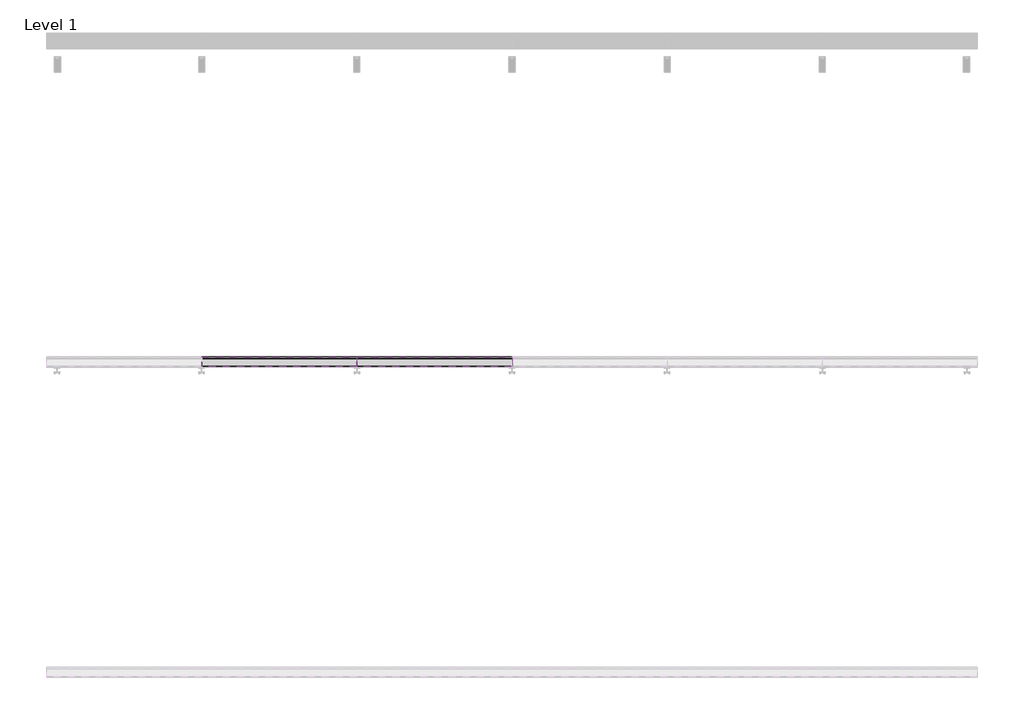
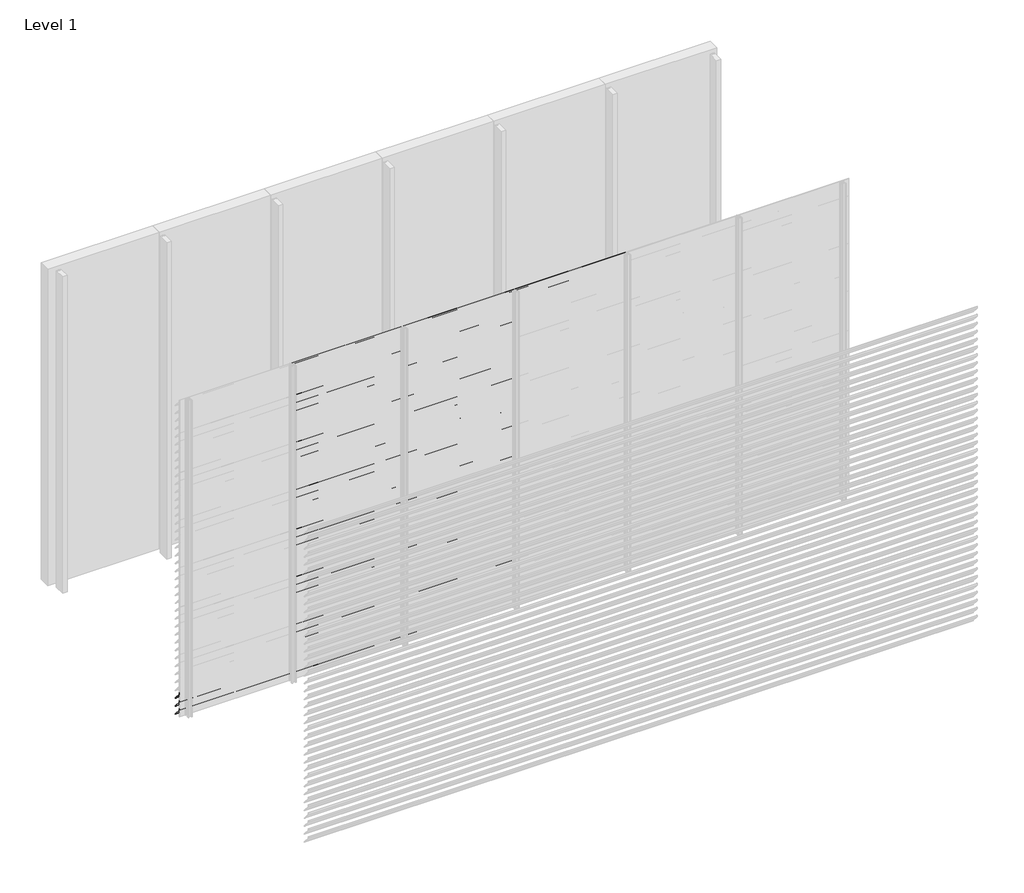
# One storey, part 11 of 35: 86 proxies.
"""IFC4 building model written with IfcOpenShell, lengths in millimetres."""

from ifc_helpers import new_model, si_unit, frame, origin, place, context, project, spatial, polyline, outline, extrude, element, save

model = new_model("IFC4")

# Units and contexts
model_context = context("Model", 3, world=origin())
ifc_project = project(units=[si_unit("LENGTHUNIT", "METRE", prefix="MILLI")], contexts=[model_context])

# Site, building, storey
site = spatial("IfcSite", under=ifc_project)
building = spatial("IfcBuilding", under=site)
storey = spatial("IfcBuildingStorey", under=building, Name="Level 1", Elevation=0.0)

# Proxies
placement = place(None, origin())
element("IfcBuildingElementProxy", 1, Name="Wall Sweeps", at=placement, inside=storey, context=model_context, shape_type="SweptSolid", body=[
    extrude(outline(polyline([(-41996.5, 225.0), (-41996.5, 210.5463701), (-41934.5, 138.9330051), (-41934.5, 135.4), (-41936.0, 135.4), (-41936.0, 138.3738975), (-41998.0, 209.9872626), (-41998.0, 225.0), (-41996.5, 225.0)])), frame((0.0, 0.0, 0.0), z_axis=(1.0, 0.0, 0.0), x_axis=(0.0, 1.0, 0.0)), (0.0, 0.0, 1.0), 1000.0),
])
element("IfcBuildingElementProxy", 2, Name="Wall Sweeps", at=placement, inside=storey, context=model_context, shape_type="SweptSolid", body=[
    extrude(outline(polyline([(-41996.5, 150.0), (-41996.5, 135.5463701), (-41934.5, 63.9330051), (-41934.5, 60.4), (-41936.0, 60.4), (-41936.0, 63.3738975), (-41998.0, 134.9872626), (-41998.0, 150.0), (-41996.5, 150.0)])), frame((0.0, 0.0, 0.0), z_axis=(1.0, 0.0, 0.0), x_axis=(0.0, 1.0, 0.0)), (0.0, 0.0, 1.0), 1000.0),
])
element("IfcBuildingElementProxy", 3, Name="Wall Sweeps", at=placement, inside=storey, context=model_context, shape_type="SweptSolid", body=[
    extrude(outline(polyline([(-41996.5, 75.0), (-41996.5, 60.5463701), (-41934.5, -11.0669949), (-41934.5, -14.6), (-41936.0, -14.6), (-41936.0, -11.6261025), (-41998.0, 59.9872626), (-41998.0, 75.0), (-41996.5, 75.0)])), frame((0.0, 0.0, 0.0), z_axis=(1.0, 0.0, 0.0), x_axis=(0.0, 1.0, 0.0)), (0.0, 0.0, 1.0), 1000.0),
])
element("IfcBuildingElementProxy", 4, Name="Wall Sweeps", at=placement, inside=storey, context=model_context, shape_type="SweptSolid", body=[
    extrude(outline(polyline([(-41996.5, 3000.0), (-41996.5, 2985.5463701), (-41934.5, 2913.9330051), (-41934.5, 2910.4), (-41936.0, 2910.4), (-41936.0, 2913.3738975), (-41998.0, 2984.9872626), (-41998.0, 3000.0), (-41996.5, 3000.0)])), frame((1000.0, 0.0, 0.0), z_axis=(1.0, 0.0, 0.0), x_axis=(0.0, 1.0, 0.0)), (0.0, 0.0, 1.0), 1000.0),
])
element("IfcBuildingElementProxy", 5, Name="Wall Sweeps", at=placement, inside=storey, context=model_context, shape_type="SweptSolid", body=[
    extrude(outline(polyline([(-41996.5, 2925.0), (-41996.5, 2910.5463701), (-41934.5, 2838.9330051), (-41934.5, 2835.4), (-41936.0, 2835.4), (-41936.0, 2838.3738975), (-41998.0, 2909.9872626), (-41998.0, 2925.0), (-41996.5, 2925.0)])), frame((1000.0, 0.0, 0.0), z_axis=(1.0, 0.0, 0.0), x_axis=(0.0, 1.0, 0.0)), (0.0, 0.0, 1.0), 1000.0),
])
element("IfcBuildingElementProxy", 6, Name="Wall Sweeps", at=placement, inside=storey, context=model_context, shape_type="SweptSolid", body=[
    extrude(outline(polyline([(-41996.5, 2850.0), (-41996.5, 2835.5463701), (-41934.5, 2763.9330051), (-41934.5, 2760.4), (-41936.0, 2760.4), (-41936.0, 2763.3738975), (-41998.0, 2834.9872626), (-41998.0, 2850.0), (-41996.5, 2850.0)])), frame((1000.0, 0.0, 0.0), z_axis=(1.0, 0.0, 0.0), x_axis=(0.0, 1.0, 0.0)), (0.0, 0.0, 1.0), 1000.0),
])
element("IfcBuildingElementProxy", 7, Name="Wall Sweeps", at=placement, inside=storey, context=model_context, shape_type="SweptSolid", body=[
    extrude(outline(polyline([(-41996.5, 2775.0), (-41996.5, 2760.5463701), (-41934.5, 2688.9330051), (-41934.5, 2685.4), (-41936.0, 2685.4), (-41936.0, 2688.3738975), (-41998.0, 2759.9872626), (-41998.0, 2775.0), (-41996.5, 2775.0)])), frame((1000.0, 0.0, 0.0), z_axis=(1.0, 0.0, 0.0), x_axis=(0.0, 1.0, 0.0)), (0.0, 0.0, 1.0), 1000.0),
])
element("IfcBuildingElementProxy", 8, Name="Wall Sweeps", at=placement, inside=storey, context=model_context, shape_type="SweptSolid", body=[
    extrude(outline(polyline([(-41996.5, 2700.0), (-41996.5, 2685.5463701), (-41934.5, 2613.9330051), (-41934.5, 2610.4), (-41936.0, 2610.4), (-41936.0, 2613.3738975), (-41998.0, 2684.9872626), (-41998.0, 2700.0), (-41996.5, 2700.0)])), frame((1000.0, 0.0, 0.0), z_axis=(1.0, 0.0, 0.0), x_axis=(0.0, 1.0, 0.0)), (0.0, 0.0, 1.0), 1000.0),
])
element("IfcBuildingElementProxy", 9, Name="Wall Sweeps", at=placement, inside=storey, context=model_context, shape_type="SweptSolid", body=[
    extrude(outline(polyline([(-41996.5, 2625.0), (-41996.5, 2610.5463701), (-41934.5, 2538.9330051), (-41934.5, 2535.4), (-41936.0, 2535.4), (-41936.0, 2538.3738975), (-41998.0, 2609.9872626), (-41998.0, 2625.0), (-41996.5, 2625.0)])), frame((1000.0, 0.0, 0.0), z_axis=(1.0, 0.0, 0.0), x_axis=(0.0, 1.0, 0.0)), (0.0, 0.0, 1.0), 1000.0),
])
element("IfcBuildingElementProxy", 10, Name="Wall Sweeps", at=placement, inside=storey, context=model_context, shape_type="SweptSolid", body=[
    extrude(outline(polyline([(-41996.5, 2550.0), (-41996.5, 2535.5463701), (-41934.5, 2463.9330051), (-41934.5, 2460.4), (-41936.0, 2460.4), (-41936.0, 2463.3738975), (-41998.0, 2534.9872626), (-41998.0, 2550.0), (-41996.5, 2550.0)])), frame((1000.0, 0.0, 0.0), z_axis=(1.0, 0.0, 0.0), x_axis=(0.0, 1.0, 0.0)), (0.0, 0.0, 1.0), 1000.0),
])
element("IfcBuildingElementProxy", 11, Name="Wall Sweeps", at=placement, inside=storey, context=model_context, shape_type="SweptSolid", body=[
    extrude(outline(polyline([(-41996.5, 2475.0), (-41996.5, 2460.5463701), (-41934.5, 2388.9330051), (-41934.5, 2385.4), (-41936.0, 2385.4), (-41936.0, 2388.3738975), (-41998.0, 2459.9872626), (-41998.0, 2475.0), (-41996.5, 2475.0)])), frame((1000.0, 0.0, 0.0), z_axis=(1.0, 0.0, 0.0), x_axis=(0.0, 1.0, 0.0)), (0.0, 0.0, 1.0), 1000.0),
])
element("IfcBuildingElementProxy", 12, Name="Wall Sweeps", at=placement, inside=storey, context=model_context, shape_type="SweptSolid", body=[
    extrude(outline(polyline([(-41996.5, 2400.0), (-41996.5, 2385.5463701), (-41934.5, 2313.9330051), (-41934.5, 2310.4), (-41936.0, 2310.4), (-41936.0, 2313.3738975), (-41998.0, 2384.9872626), (-41998.0, 2400.0), (-41996.5, 2400.0)])), frame((1000.0, 0.0, 0.0), z_axis=(1.0, 0.0, 0.0), x_axis=(0.0, 1.0, 0.0)), (0.0, 0.0, 1.0), 1000.0),
])
element("IfcBuildingElementProxy", 13, Name="Wall Sweeps", at=placement, inside=storey, context=model_context, shape_type="SweptSolid", body=[
    extrude(outline(polyline([(-41996.5, 2325.0), (-41996.5, 2310.5463701), (-41934.5, 2238.9330051), (-41934.5, 2235.4), (-41936.0, 2235.4), (-41936.0, 2238.3738975), (-41998.0, 2309.9872626), (-41998.0, 2325.0), (-41996.5, 2325.0)])), frame((1000.0, 0.0, 0.0), z_axis=(1.0, 0.0, 0.0), x_axis=(0.0, 1.0, 0.0)), (0.0, 0.0, 1.0), 1000.0),
])
element("IfcBuildingElementProxy", 14, Name="Wall Sweeps", at=placement, inside=storey, context=model_context, shape_type="SweptSolid", body=[
    extrude(outline(polyline([(-41996.5, 2250.0), (-41996.5, 2235.5463701), (-41934.5, 2163.9330051), (-41934.5, 2160.4), (-41936.0, 2160.4), (-41936.0, 2163.3738975), (-41998.0, 2234.9872626), (-41998.0, 2250.0), (-41996.5, 2250.0)])), frame((1000.0, 0.0, 0.0), z_axis=(1.0, 0.0, 0.0), x_axis=(0.0, 1.0, 0.0)), (0.0, 0.0, 1.0), 1000.0),
])
element("IfcBuildingElementProxy", 15, Name="Wall Sweeps", at=placement, inside=storey, context=model_context, shape_type="SweptSolid", body=[
    extrude(outline(polyline([(-41996.5, 2175.0), (-41996.5, 2160.5463701), (-41934.5, 2088.9330051), (-41934.5, 2085.4), (-41936.0, 2085.4), (-41936.0, 2088.3738975), (-41998.0, 2159.9872626), (-41998.0, 2175.0), (-41996.5, 2175.0)])), frame((1000.0, 0.0, 0.0), z_axis=(1.0, 0.0, 0.0), x_axis=(0.0, 1.0, 0.0)), (0.0, 0.0, 1.0), 1000.0),
])
element("IfcBuildingElementProxy", 16, Name="Wall Sweeps", at=placement, inside=storey, context=model_context, shape_type="SweptSolid", body=[
    extrude(outline(polyline([(-41996.5, 2100.0), (-41996.5, 2085.5463701), (-41934.5, 2013.9330051), (-41934.5, 2010.4), (-41936.0, 2010.4), (-41936.0, 2013.3738975), (-41998.0, 2084.9872626), (-41998.0, 2100.0), (-41996.5, 2100.0)])), frame((1000.0, 0.0, 0.0), z_axis=(1.0, 0.0, 0.0), x_axis=(0.0, 1.0, 0.0)), (0.0, 0.0, 1.0), 1000.0),
])
element("IfcBuildingElementProxy", 17, Name="Wall Sweeps", at=placement, inside=storey, context=model_context, shape_type="SweptSolid", body=[
    extrude(outline(polyline([(-41996.5, 2025.0), (-41996.5, 2010.5463701), (-41934.5, 1938.9330051), (-41934.5, 1935.4), (-41936.0, 1935.4), (-41936.0, 1938.3738975), (-41998.0, 2009.9872626), (-41998.0, 2025.0), (-41996.5, 2025.0)])), frame((1000.0, 0.0, 0.0), z_axis=(1.0, 0.0, 0.0), x_axis=(0.0, 1.0, 0.0)), (0.0, 0.0, 1.0), 1000.0),
])
element("IfcBuildingElementProxy", 18, Name="Wall Sweeps", at=placement, inside=storey, context=model_context, shape_type="SweptSolid", body=[
    extrude(outline(polyline([(-41996.5, 1950.0), (-41996.5, 1935.5463701), (-41934.5, 1863.9330051), (-41934.5, 1860.4), (-41936.0, 1860.4), (-41936.0, 1863.3738975), (-41998.0, 1934.9872626), (-41998.0, 1950.0), (-41996.5, 1950.0)])), frame((1000.0, 0.0, 0.0), z_axis=(1.0, 0.0, 0.0), x_axis=(0.0, 1.0, 0.0)), (0.0, 0.0, 1.0), 1000.0),
])
element("IfcBuildingElementProxy", 19, Name="Wall Sweeps", at=placement, inside=storey, context=model_context, shape_type="SweptSolid", body=[
    extrude(outline(polyline([(-41996.5, 1875.0), (-41996.5, 1860.5463701), (-41934.5, 1788.9330051), (-41934.5, 1785.4), (-41936.0, 1785.4), (-41936.0, 1788.3738975), (-41998.0, 1859.9872626), (-41998.0, 1875.0), (-41996.5, 1875.0)])), frame((1000.0, 0.0, 0.0), z_axis=(1.0, 0.0, 0.0), x_axis=(0.0, 1.0, 0.0)), (0.0, 0.0, 1.0), 1000.0),
])
element("IfcBuildingElementProxy", 20, Name="Wall Sweeps", at=placement, inside=storey, context=model_context, shape_type="SweptSolid", body=[
    extrude(outline(polyline([(-41996.5, 1800.0), (-41996.5, 1785.5463701), (-41934.5, 1713.9330051), (-41934.5, 1710.4), (-41936.0, 1710.4), (-41936.0, 1713.3738975), (-41998.0, 1784.9872626), (-41998.0, 1800.0), (-41996.5, 1800.0)])), frame((1000.0, 0.0, 0.0), z_axis=(1.0, 0.0, 0.0), x_axis=(0.0, 1.0, 0.0)), (0.0, 0.0, 1.0), 1000.0),
])
element("IfcBuildingElementProxy", 21, Name="Wall Sweeps", at=placement, inside=storey, context=model_context, shape_type="SweptSolid", body=[
    extrude(outline(polyline([(-41996.5, 1725.0), (-41996.5, 1710.5463701), (-41934.5, 1638.9330051), (-41934.5, 1635.4), (-41936.0, 1635.4), (-41936.0, 1638.3738975), (-41998.0, 1709.9872626), (-41998.0, 1725.0), (-41996.5, 1725.0)])), frame((1000.0, 0.0, 0.0), z_axis=(1.0, 0.0, 0.0), x_axis=(0.0, 1.0, 0.0)), (0.0, 0.0, 1.0), 1000.0),
])
element("IfcBuildingElementProxy", 22, Name="Wall Sweeps", at=placement, inside=storey, context=model_context, shape_type="SweptSolid", body=[
    extrude(outline(polyline([(-41996.5, 1650.0), (-41996.5, 1635.5463701), (-41934.5, 1563.9330051), (-41934.5, 1560.4), (-41936.0, 1560.4), (-41936.0, 1563.3738975), (-41998.0, 1634.9872626), (-41998.0, 1650.0), (-41996.5, 1650.0)])), frame((1000.0, 0.0, 0.0), z_axis=(1.0, 0.0, 0.0), x_axis=(0.0, 1.0, 0.0)), (0.0, 0.0, 1.0), 1000.0),
])
element("IfcBuildingElementProxy", 23, Name="Wall Sweeps", at=placement, inside=storey, context=model_context, shape_type="SweptSolid", body=[
    extrude(outline(polyline([(-41996.5, 1575.0), (-41996.5, 1560.5463701), (-41934.5, 1488.9330051), (-41934.5, 1485.4), (-41936.0, 1485.4), (-41936.0, 1488.3738975), (-41998.0, 1559.9872626), (-41998.0, 1575.0), (-41996.5, 1575.0)])), frame((1000.0, 0.0, 0.0), z_axis=(1.0, 0.0, 0.0), x_axis=(0.0, 1.0, 0.0)), (0.0, 0.0, 1.0), 1000.0),
])
element("IfcBuildingElementProxy", 24, Name="Wall Sweeps", at=placement, inside=storey, context=model_context, shape_type="SweptSolid", body=[
    extrude(outline(polyline([(-41996.5, 1500.0), (-41996.5, 1485.5463701), (-41934.5, 1413.9330051), (-41934.5, 1410.4), (-41936.0, 1410.4), (-41936.0, 1413.3738975), (-41998.0, 1484.9872626), (-41998.0, 1500.0), (-41996.5, 1500.0)])), frame((1000.0, 0.0, 0.0), z_axis=(1.0, 0.0, 0.0), x_axis=(0.0, 1.0, 0.0)), (0.0, 0.0, 1.0), 1000.0),
])
element("IfcBuildingElementProxy", 25, Name="Wall Sweeps", at=placement, inside=storey, context=model_context, shape_type="SweptSolid", body=[
    extrude(outline(polyline([(-41996.5, 1425.0), (-41996.5, 1410.5463701), (-41934.5, 1338.9330051), (-41934.5, 1335.4), (-41936.0, 1335.4), (-41936.0, 1338.3738975), (-41998.0, 1409.9872626), (-41998.0, 1425.0), (-41996.5, 1425.0)])), frame((1000.0, 0.0, 0.0), z_axis=(1.0, 0.0, 0.0), x_axis=(0.0, 1.0, 0.0)), (0.0, 0.0, 1.0), 1000.0),
])
element("IfcBuildingElementProxy", 26, Name="Wall Sweeps", at=placement, inside=storey, context=model_context, shape_type="SweptSolid", body=[
    extrude(outline(polyline([(-41996.5, 1350.0), (-41996.5, 1335.5463701), (-41934.5, 1263.9330051), (-41934.5, 1260.4), (-41936.0, 1260.4), (-41936.0, 1263.3738975), (-41998.0, 1334.9872626), (-41998.0, 1350.0), (-41996.5, 1350.0)])), frame((1000.0, 0.0, 0.0), z_axis=(1.0, 0.0, 0.0), x_axis=(0.0, 1.0, 0.0)), (0.0, 0.0, 1.0), 1000.0),
])
element("IfcBuildingElementProxy", 27, Name="Wall Sweeps", at=placement, inside=storey, context=model_context, shape_type="SweptSolid", body=[
    extrude(outline(polyline([(-41996.5, 1275.0), (-41996.5, 1260.5463701), (-41934.5, 1188.9330051), (-41934.5, 1185.4), (-41936.0, 1185.4), (-41936.0, 1188.3738975), (-41998.0, 1259.9872626), (-41998.0, 1275.0), (-41996.5, 1275.0)])), frame((1000.0, 0.0, 0.0), z_axis=(1.0, 0.0, 0.0), x_axis=(0.0, 1.0, 0.0)), (0.0, 0.0, 1.0), 1000.0),
])
element("IfcBuildingElementProxy", 28, Name="Wall Sweeps", at=placement, inside=storey, context=model_context, shape_type="SweptSolid", body=[
    extrude(outline(polyline([(-41996.5, 1200.0), (-41996.5, 1185.5463701), (-41934.5, 1113.9330051), (-41934.5, 1110.4), (-41936.0, 1110.4), (-41936.0, 1113.3738975), (-41998.0, 1184.9872626), (-41998.0, 1200.0), (-41996.5, 1200.0)])), frame((1000.0, 0.0, 0.0), z_axis=(1.0, 0.0, 0.0), x_axis=(0.0, 1.0, 0.0)), (0.0, 0.0, 1.0), 1000.0),
])
element("IfcBuildingElementProxy", 29, Name="Wall Sweeps", at=placement, inside=storey, context=model_context, shape_type="SweptSolid", body=[
    extrude(outline(polyline([(-41996.5, 1125.0), (-41996.5, 1110.5463701), (-41934.5, 1038.9330051), (-41934.5, 1035.4), (-41936.0, 1035.4), (-41936.0, 1038.3738975), (-41998.0, 1109.9872626), (-41998.0, 1125.0), (-41996.5, 1125.0)])), frame((1000.0, 0.0, 0.0), z_axis=(1.0, 0.0, 0.0), x_axis=(0.0, 1.0, 0.0)), (0.0, 0.0, 1.0), 1000.0),
])
element("IfcBuildingElementProxy", 30, Name="Wall Sweeps", at=placement, inside=storey, context=model_context, shape_type="SweptSolid", body=[
    extrude(outline(polyline([(-41996.5, 1050.0), (-41996.5, 1035.5463701), (-41934.5, 963.9330051), (-41934.5, 960.4), (-41936.0, 960.4), (-41936.0, 963.3738975), (-41998.0, 1034.9872626), (-41998.0, 1050.0), (-41996.5, 1050.0)])), frame((1000.0, 0.0, 0.0), z_axis=(1.0, 0.0, 0.0), x_axis=(0.0, 1.0, 0.0)), (0.0, 0.0, 1.0), 1000.0),
])
element("IfcBuildingElementProxy", 31, Name="Wall Sweeps", at=placement, inside=storey, context=model_context, shape_type="SweptSolid", body=[
    extrude(outline(polyline([(-41996.5, 975.0), (-41996.5, 960.5463701), (-41934.5, 888.9330051), (-41934.5, 885.4), (-41936.0, 885.4), (-41936.0, 888.3738975), (-41998.0, 959.9872626), (-41998.0, 975.0), (-41996.5, 975.0)])), frame((1000.0, 0.0, 0.0), z_axis=(1.0, 0.0, 0.0), x_axis=(0.0, 1.0, 0.0)), (0.0, 0.0, 1.0), 1000.0),
])
element("IfcBuildingElementProxy", 32, Name="Wall Sweeps", at=placement, inside=storey, context=model_context, shape_type="SweptSolid", body=[
    extrude(outline(polyline([(-41996.5, 900.0), (-41996.5, 885.5463701), (-41934.5, 813.9330051), (-41934.5, 810.4), (-41936.0, 810.4), (-41936.0, 813.3738975), (-41998.0, 884.9872626), (-41998.0, 900.0), (-41996.5, 900.0)])), frame((1000.0, 0.0, 0.0), z_axis=(1.0, 0.0, 0.0), x_axis=(0.0, 1.0, 0.0)), (0.0, 0.0, 1.0), 1000.0),
])
element("IfcBuildingElementProxy", 33, Name="Wall Sweeps", at=placement, inside=storey, context=model_context, shape_type="SweptSolid", body=[
    extrude(outline(polyline([(-41996.5, 825.0), (-41996.5, 810.5463701), (-41934.5, 738.9330051), (-41934.5, 735.4), (-41936.0, 735.4), (-41936.0, 738.3738975), (-41998.0, 809.9872626), (-41998.0, 825.0), (-41996.5, 825.0)])), frame((1000.0, 0.0, 0.0), z_axis=(1.0, 0.0, 0.0), x_axis=(0.0, 1.0, 0.0)), (0.0, 0.0, 1.0), 1000.0),
])
element("IfcBuildingElementProxy", 34, Name="Wall Sweeps", at=placement, inside=storey, context=model_context, shape_type="SweptSolid", body=[
    extrude(outline(polyline([(-41996.5, 750.0), (-41996.5, 735.5463701), (-41934.5, 663.9330051), (-41934.5, 660.4), (-41936.0, 660.4), (-41936.0, 663.3738975), (-41998.0, 734.9872626), (-41998.0, 750.0), (-41996.5, 750.0)])), frame((1000.0, 0.0, 0.0), z_axis=(1.0, 0.0, 0.0), x_axis=(0.0, 1.0, 0.0)), (0.0, 0.0, 1.0), 1000.0),
])
element("IfcBuildingElementProxy", 35, Name="Wall Sweeps", at=placement, inside=storey, context=model_context, shape_type="SweptSolid", body=[
    extrude(outline(polyline([(-41996.5, 675.0), (-41996.5, 660.5463701), (-41934.5, 588.9330051), (-41934.5, 585.4), (-41936.0, 585.4), (-41936.0, 588.3738975), (-41998.0, 659.9872626), (-41998.0, 675.0), (-41996.5, 675.0)])), frame((1000.0, 0.0, 0.0), z_axis=(1.0, 0.0, 0.0), x_axis=(0.0, 1.0, 0.0)), (0.0, 0.0, 1.0), 1000.0),
])
element("IfcBuildingElementProxy", 36, Name="Wall Sweeps", at=placement, inside=storey, context=model_context, shape_type="SweptSolid", body=[
    extrude(outline(polyline([(-41996.5, 600.0), (-41996.5, 585.5463701), (-41934.5, 513.9330051), (-41934.5, 510.4), (-41936.0, 510.4), (-41936.0, 513.3738975), (-41998.0, 584.9872626), (-41998.0, 600.0), (-41996.5, 600.0)])), frame((1000.0, 0.0, 0.0), z_axis=(1.0, 0.0, 0.0), x_axis=(0.0, 1.0, 0.0)), (0.0, 0.0, 1.0), 1000.0),
])
element("IfcBuildingElementProxy", 37, Name="Wall Sweeps", at=placement, inside=storey, context=model_context, shape_type="SweptSolid", body=[
    extrude(outline(polyline([(-41996.5, 525.0), (-41996.5, 510.5463701), (-41934.5, 438.9330051), (-41934.5, 435.4), (-41936.0, 435.4), (-41936.0, 438.3738975), (-41998.0, 509.9872626), (-41998.0, 525.0), (-41996.5, 525.0)])), frame((1000.0, 0.0, 0.0), z_axis=(1.0, 0.0, 0.0), x_axis=(0.0, 1.0, 0.0)), (0.0, 0.0, 1.0), 1000.0),
])
element("IfcBuildingElementProxy", 38, Name="Wall Sweeps", at=placement, inside=storey, context=model_context, shape_type="SweptSolid", body=[
    extrude(outline(polyline([(-41996.5, 450.0), (-41996.5, 435.5463701), (-41934.5, 363.9330051), (-41934.5, 360.4), (-41936.0, 360.4), (-41936.0, 363.3738975), (-41998.0, 434.9872626), (-41998.0, 450.0), (-41996.5, 450.0)])), frame((1000.0, 0.0, 0.0), z_axis=(1.0, 0.0, 0.0), x_axis=(0.0, 1.0, 0.0)), (0.0, 0.0, 1.0), 1000.0),
])
element("IfcBuildingElementProxy", 39, Name="Wall Sweeps", at=placement, inside=storey, context=model_context, shape_type="SweptSolid", body=[
    extrude(outline(polyline([(-41996.5, 375.0), (-41996.5, 360.5463701), (-41934.5, 288.9330051), (-41934.5, 285.4), (-41936.0, 285.4), (-41936.0, 288.3738975), (-41998.0, 359.9872626), (-41998.0, 375.0), (-41996.5, 375.0)])), frame((1000.0, 0.0, 0.0), z_axis=(1.0, 0.0, 0.0), x_axis=(0.0, 1.0, 0.0)), (0.0, 0.0, 1.0), 1000.0),
])
element("IfcBuildingElementProxy", 40, Name="Wall Sweeps", at=placement, inside=storey, context=model_context, shape_type="SweptSolid", body=[
    extrude(outline(polyline([(-41996.5, 300.0), (-41996.5, 285.5463701), (-41934.5, 213.9330051), (-41934.5, 210.4), (-41936.0, 210.4), (-41936.0, 213.3738975), (-41998.0, 284.9872626), (-41998.0, 300.0), (-41996.5, 300.0)])), frame((1000.0, 0.0, 0.0), z_axis=(1.0, 0.0, 0.0), x_axis=(0.0, 1.0, 0.0)), (0.0, 0.0, 1.0), 1000.0),
])
element("IfcBuildingElementProxy", 41, Name="Wall Sweeps", at=placement, inside=storey, context=model_context, shape_type="SweptSolid", body=[
    extrude(outline(polyline([(-41996.5, 225.0), (-41996.5, 210.5463701), (-41934.5, 138.9330051), (-41934.5, 135.4), (-41936.0, 135.4), (-41936.0, 138.3738975), (-41998.0, 209.9872626), (-41998.0, 225.0), (-41996.5, 225.0)])), frame((1000.0, 0.0, 0.0), z_axis=(1.0, 0.0, 0.0), x_axis=(0.0, 1.0, 0.0)), (0.0, 0.0, 1.0), 1000.0),
])
element("IfcBuildingElementProxy", 42, Name="Wall Sweeps", at=placement, inside=storey, context=model_context, shape_type="SweptSolid", body=[
    extrude(outline(polyline([(-41996.5, 150.0), (-41996.5, 135.5463701), (-41934.5, 63.9330051), (-41934.5, 60.4), (-41936.0, 60.4), (-41936.0, 63.3738975), (-41998.0, 134.9872626), (-41998.0, 150.0), (-41996.5, 150.0)])), frame((1000.0, 0.0, 0.0), z_axis=(1.0, 0.0, 0.0), x_axis=(0.0, 1.0, 0.0)), (0.0, 0.0, 1.0), 1000.0),
])
element("IfcBuildingElementProxy", 43, Name="Wall Sweeps", at=placement, inside=storey, context=model_context, shape_type="SweptSolid", body=[
    extrude(outline(polyline([(-41996.5, 75.0), (-41996.5, 60.5463701), (-41934.5, -11.0669949), (-41934.5, -14.6), (-41936.0, -14.6), (-41936.0, -11.6261025), (-41998.0, 59.9872626), (-41998.0, 75.0), (-41996.5, 75.0)])), frame((1000.0, 0.0, 0.0), z_axis=(1.0, 0.0, 0.0), x_axis=(0.0, 1.0, 0.0)), (0.0, 0.0, 1.0), 1000.0),
])
element("IfcBuildingElementProxy", 44, Name="Wall Sweeps", at=placement, inside=storey, context=model_context, shape_type="SweptSolid", body=[
    extrude(outline(polyline([(-41996.5, 3000.0), (-41996.5, 2985.5463701), (-41934.5, 2913.9330051), (-41934.5, 2910.4), (-41936.0, 2910.4), (-41936.0, 2913.3738975), (-41998.0, 2984.9872626), (-41998.0, 3000.0), (-41996.5, 3000.0)])), frame((2000.0, 0.0, 0.0), z_axis=(1.0, 0.0, 0.0), x_axis=(0.0, 1.0, 0.0)), (0.0, 0.0, 1.0), 1000.0),
])
element("IfcBuildingElementProxy", 45, Name="Wall Sweeps", at=placement, inside=storey, context=model_context, shape_type="SweptSolid", body=[
    extrude(outline(polyline([(-41996.5, 2925.0), (-41996.5, 2910.5463701), (-41934.5, 2838.9330051), (-41934.5, 2835.4), (-41936.0, 2835.4), (-41936.0, 2838.3738975), (-41998.0, 2909.9872626), (-41998.0, 2925.0), (-41996.5, 2925.0)])), frame((2000.0, 0.0, 0.0), z_axis=(1.0, 0.0, 0.0), x_axis=(0.0, 1.0, 0.0)), (0.0, 0.0, 1.0), 1000.0),
])
element("IfcBuildingElementProxy", 46, Name="Wall Sweeps", at=placement, inside=storey, context=model_context, shape_type="SweptSolid", body=[
    extrude(outline(polyline([(-41996.5, 2850.0), (-41996.5, 2835.5463701), (-41934.5, 2763.9330051), (-41934.5, 2760.4), (-41936.0, 2760.4), (-41936.0, 2763.3738975), (-41998.0, 2834.9872626), (-41998.0, 2850.0), (-41996.5, 2850.0)])), frame((2000.0, 0.0, 0.0), z_axis=(1.0, 0.0, 0.0), x_axis=(0.0, 1.0, 0.0)), (0.0, 0.0, 1.0), 1000.0),
])
element("IfcBuildingElementProxy", 47, Name="Wall Sweeps", at=placement, inside=storey, context=model_context, shape_type="SweptSolid", body=[
    extrude(outline(polyline([(-41996.5, 2775.0), (-41996.5, 2760.5463701), (-41934.5, 2688.9330051), (-41934.5, 2685.4), (-41936.0, 2685.4), (-41936.0, 2688.3738975), (-41998.0, 2759.9872626), (-41998.0, 2775.0), (-41996.5, 2775.0)])), frame((2000.0, 0.0, 0.0), z_axis=(1.0, 0.0, 0.0), x_axis=(0.0, 1.0, 0.0)), (0.0, 0.0, 1.0), 1000.0),
])
element("IfcBuildingElementProxy", 48, Name="Wall Sweeps", at=placement, inside=storey, context=model_context, shape_type="SweptSolid", body=[
    extrude(outline(polyline([(-41996.5, 2700.0), (-41996.5, 2685.5463701), (-41934.5, 2613.9330051), (-41934.5, 2610.4), (-41936.0, 2610.4), (-41936.0, 2613.3738975), (-41998.0, 2684.9872626), (-41998.0, 2700.0), (-41996.5, 2700.0)])), frame((2000.0, 0.0, 0.0), z_axis=(1.0, 0.0, 0.0), x_axis=(0.0, 1.0, 0.0)), (0.0, 0.0, 1.0), 1000.0),
])
element("IfcBuildingElementProxy", 49, Name="Wall Sweeps", at=placement, inside=storey, context=model_context, shape_type="SweptSolid", body=[
    extrude(outline(polyline([(-41996.5, 2625.0), (-41996.5, 2610.5463701), (-41934.5, 2538.9330051), (-41934.5, 2535.4), (-41936.0, 2535.4), (-41936.0, 2538.3738975), (-41998.0, 2609.9872626), (-41998.0, 2625.0), (-41996.5, 2625.0)])), frame((2000.0, 0.0, 0.0), z_axis=(1.0, 0.0, 0.0), x_axis=(0.0, 1.0, 0.0)), (0.0, 0.0, 1.0), 1000.0),
])
element("IfcBuildingElementProxy", 50, Name="Wall Sweeps", at=placement, inside=storey, context=model_context, shape_type="SweptSolid", body=[
    extrude(outline(polyline([(-41996.5, 2550.0), (-41996.5, 2535.5463701), (-41934.5, 2463.9330051), (-41934.5, 2460.4), (-41936.0, 2460.4), (-41936.0, 2463.3738975), (-41998.0, 2534.9872626), (-41998.0, 2550.0), (-41996.5, 2550.0)])), frame((2000.0, 0.0, 0.0), z_axis=(1.0, 0.0, 0.0), x_axis=(0.0, 1.0, 0.0)), (0.0, 0.0, 1.0), 1000.0),
])
element("IfcBuildingElementProxy", 51, Name="Wall Sweeps", at=placement, inside=storey, context=model_context, shape_type="SweptSolid", body=[
    extrude(outline(polyline([(-41996.5, 2475.0), (-41996.5, 2460.5463701), (-41934.5, 2388.9330051), (-41934.5, 2385.4), (-41936.0, 2385.4), (-41936.0, 2388.3738975), (-41998.0, 2459.9872626), (-41998.0, 2475.0), (-41996.5, 2475.0)])), frame((2000.0, 0.0, 0.0), z_axis=(1.0, 0.0, 0.0), x_axis=(0.0, 1.0, 0.0)), (0.0, 0.0, 1.0), 1000.0),
])
element("IfcBuildingElementProxy", 52, Name="Wall Sweeps", at=placement, inside=storey, context=model_context, shape_type="SweptSolid", body=[
    extrude(outline(polyline([(-41996.5, 2400.0), (-41996.5, 2385.5463701), (-41934.5, 2313.9330051), (-41934.5, 2310.4), (-41936.0, 2310.4), (-41936.0, 2313.3738975), (-41998.0, 2384.9872626), (-41998.0, 2400.0), (-41996.5, 2400.0)])), frame((2000.0, 0.0, 0.0), z_axis=(1.0, 0.0, 0.0), x_axis=(0.0, 1.0, 0.0)), (0.0, 0.0, 1.0), 1000.0),
])
element("IfcBuildingElementProxy", 53, Name="Wall Sweeps", at=placement, inside=storey, context=model_context, shape_type="SweptSolid", body=[
    extrude(outline(polyline([(-41996.5, 2325.0), (-41996.5, 2310.5463701), (-41934.5, 2238.9330051), (-41934.5, 2235.4), (-41936.0, 2235.4), (-41936.0, 2238.3738975), (-41998.0, 2309.9872626), (-41998.0, 2325.0), (-41996.5, 2325.0)])), frame((2000.0, 0.0, 0.0), z_axis=(1.0, 0.0, 0.0), x_axis=(0.0, 1.0, 0.0)), (0.0, 0.0, 1.0), 1000.0),
])
element("IfcBuildingElementProxy", 54, Name="Wall Sweeps", at=placement, inside=storey, context=model_context, shape_type="SweptSolid", body=[
    extrude(outline(polyline([(-41996.5, 2250.0), (-41996.5, 2235.5463701), (-41934.5, 2163.9330051), (-41934.5, 2160.4), (-41936.0, 2160.4), (-41936.0, 2163.3738975), (-41998.0, 2234.9872626), (-41998.0, 2250.0), (-41996.5, 2250.0)])), frame((2000.0, 0.0, 0.0), z_axis=(1.0, 0.0, 0.0), x_axis=(0.0, 1.0, 0.0)), (0.0, 0.0, 1.0), 1000.0),
])
element("IfcBuildingElementProxy", 55, Name="Wall Sweeps", at=placement, inside=storey, context=model_context, shape_type="SweptSolid", body=[
    extrude(outline(polyline([(-41996.5, 2175.0), (-41996.5, 2160.5463701), (-41934.5, 2088.9330051), (-41934.5, 2085.4), (-41936.0, 2085.4), (-41936.0, 2088.3738975), (-41998.0, 2159.9872626), (-41998.0, 2175.0), (-41996.5, 2175.0)])), frame((2000.0, 0.0, 0.0), z_axis=(1.0, 0.0, 0.0), x_axis=(0.0, 1.0, 0.0)), (0.0, 0.0, 1.0), 1000.0),
])
element("IfcBuildingElementProxy", 56, Name="Wall Sweeps", at=placement, inside=storey, context=model_context, shape_type="SweptSolid", body=[
    extrude(outline(polyline([(-41996.5, 2100.0), (-41996.5, 2085.5463701), (-41934.5, 2013.9330051), (-41934.5, 2010.4), (-41936.0, 2010.4), (-41936.0, 2013.3738975), (-41998.0, 2084.9872626), (-41998.0, 2100.0), (-41996.5, 2100.0)])), frame((2000.0, 0.0, 0.0), z_axis=(1.0, 0.0, 0.0), x_axis=(0.0, 1.0, 0.0)), (0.0, 0.0, 1.0), 1000.0),
])
element("IfcBuildingElementProxy", 57, Name="Wall Sweeps", at=placement, inside=storey, context=model_context, shape_type="SweptSolid", body=[
    extrude(outline(polyline([(-41996.5, 2025.0), (-41996.5, 2010.5463701), (-41934.5, 1938.9330051), (-41934.5, 1935.4), (-41936.0, 1935.4), (-41936.0, 1938.3738975), (-41998.0, 2009.9872626), (-41998.0, 2025.0), (-41996.5, 2025.0)])), frame((2000.0, 0.0, 0.0), z_axis=(1.0, 0.0, 0.0), x_axis=(0.0, 1.0, 0.0)), (0.0, 0.0, 1.0), 1000.0),
])
element("IfcBuildingElementProxy", 58, Name="Wall Sweeps", at=placement, inside=storey, context=model_context, shape_type="SweptSolid", body=[
    extrude(outline(polyline([(-41996.5, 1950.0), (-41996.5, 1935.5463701), (-41934.5, 1863.9330051), (-41934.5, 1860.4), (-41936.0, 1860.4), (-41936.0, 1863.3738975), (-41998.0, 1934.9872626), (-41998.0, 1950.0), (-41996.5, 1950.0)])), frame((2000.0, 0.0, 0.0), z_axis=(1.0, 0.0, 0.0), x_axis=(0.0, 1.0, 0.0)), (0.0, 0.0, 1.0), 1000.0),
])
element("IfcBuildingElementProxy", 59, Name="Wall Sweeps", at=placement, inside=storey, context=model_context, shape_type="SweptSolid", body=[
    extrude(outline(polyline([(-41996.5, 1875.0), (-41996.5, 1860.5463701), (-41934.5, 1788.9330051), (-41934.5, 1785.4), (-41936.0, 1785.4), (-41936.0, 1788.3738975), (-41998.0, 1859.9872626), (-41998.0, 1875.0), (-41996.5, 1875.0)])), frame((2000.0, 0.0, 0.0), z_axis=(1.0, 0.0, 0.0), x_axis=(0.0, 1.0, 0.0)), (0.0, 0.0, 1.0), 1000.0),
])
element("IfcBuildingElementProxy", 60, Name="Wall Sweeps", at=placement, inside=storey, context=model_context, shape_type="SweptSolid", body=[
    extrude(outline(polyline([(-41996.5, 1800.0), (-41996.5, 1785.5463701), (-41934.5, 1713.9330051), (-41934.5, 1710.4), (-41936.0, 1710.4), (-41936.0, 1713.3738975), (-41998.0, 1784.9872626), (-41998.0, 1800.0), (-41996.5, 1800.0)])), frame((2000.0, 0.0, 0.0), z_axis=(1.0, 0.0, 0.0), x_axis=(0.0, 1.0, 0.0)), (0.0, 0.0, 1.0), 1000.0),
])
element("IfcBuildingElementProxy", 61, Name="Wall Sweeps", at=placement, inside=storey, context=model_context, shape_type="SweptSolid", body=[
    extrude(outline(polyline([(-41996.5, 1725.0), (-41996.5, 1710.5463701), (-41934.5, 1638.9330051), (-41934.5, 1635.4), (-41936.0, 1635.4), (-41936.0, 1638.3738975), (-41998.0, 1709.9872626), (-41998.0, 1725.0), (-41996.5, 1725.0)])), frame((2000.0, 0.0, 0.0), z_axis=(1.0, 0.0, 0.0), x_axis=(0.0, 1.0, 0.0)), (0.0, 0.0, 1.0), 1000.0),
])
element("IfcBuildingElementProxy", 62, Name="Wall Sweeps", at=placement, inside=storey, context=model_context, shape_type="SweptSolid", body=[
    extrude(outline(polyline([(-41996.5, 1650.0), (-41996.5, 1635.5463701), (-41934.5, 1563.9330051), (-41934.5, 1560.4), (-41936.0, 1560.4), (-41936.0, 1563.3738975), (-41998.0, 1634.9872626), (-41998.0, 1650.0), (-41996.5, 1650.0)])), frame((2000.0, 0.0, 0.0), z_axis=(1.0, 0.0, 0.0), x_axis=(0.0, 1.0, 0.0)), (0.0, 0.0, 1.0), 1000.0),
])
element("IfcBuildingElementProxy", 63, Name="Wall Sweeps", at=placement, inside=storey, context=model_context, shape_type="SweptSolid", body=[
    extrude(outline(polyline([(-41996.5, 1575.0), (-41996.5, 1560.5463701), (-41934.5, 1488.9330051), (-41934.5, 1485.4), (-41936.0, 1485.4), (-41936.0, 1488.3738975), (-41998.0, 1559.9872626), (-41998.0, 1575.0), (-41996.5, 1575.0)])), frame((2000.0, 0.0, 0.0), z_axis=(1.0, 0.0, 0.0), x_axis=(0.0, 1.0, 0.0)), (0.0, 0.0, 1.0), 1000.0),
])
element("IfcBuildingElementProxy", 64, Name="Wall Sweeps", at=placement, inside=storey, context=model_context, shape_type="SweptSolid", body=[
    extrude(outline(polyline([(-41996.5, 1500.0), (-41996.5, 1485.5463701), (-41934.5, 1413.9330051), (-41934.5, 1410.4), (-41936.0, 1410.4), (-41936.0, 1413.3738975), (-41998.0, 1484.9872626), (-41998.0, 1500.0), (-41996.5, 1500.0)])), frame((2000.0, 0.0, 0.0), z_axis=(1.0, 0.0, 0.0), x_axis=(0.0, 1.0, 0.0)), (0.0, 0.0, 1.0), 1000.0),
])
element("IfcBuildingElementProxy", 65, Name="Wall Sweeps", at=placement, inside=storey, context=model_context, shape_type="SweptSolid", body=[
    extrude(outline(polyline([(-41996.5, 1425.0), (-41996.5, 1410.5463701), (-41934.5, 1338.9330051), (-41934.5, 1335.4), (-41936.0, 1335.4), (-41936.0, 1338.3738975), (-41998.0, 1409.9872626), (-41998.0, 1425.0), (-41996.5, 1425.0)])), frame((2000.0, 0.0, 0.0), z_axis=(1.0, 0.0, 0.0), x_axis=(0.0, 1.0, 0.0)), (0.0, 0.0, 1.0), 1000.0),
])
element("IfcBuildingElementProxy", 66, Name="Wall Sweeps", at=placement, inside=storey, context=model_context, shape_type="SweptSolid", body=[
    extrude(outline(polyline([(-41996.5, 1350.0), (-41996.5, 1335.5463701), (-41934.5, 1263.9330051), (-41934.5, 1260.4), (-41936.0, 1260.4), (-41936.0, 1263.3738975), (-41998.0, 1334.9872626), (-41998.0, 1350.0), (-41996.5, 1350.0)])), frame((2000.0, 0.0, 0.0), z_axis=(1.0, 0.0, 0.0), x_axis=(0.0, 1.0, 0.0)), (0.0, 0.0, 1.0), 1000.0),
])
element("IfcBuildingElementProxy", 67, Name="Wall Sweeps", at=placement, inside=storey, context=model_context, shape_type="SweptSolid", body=[
    extrude(outline(polyline([(-41996.5, 1275.0), (-41996.5, 1260.5463701), (-41934.5, 1188.9330051), (-41934.5, 1185.4), (-41936.0, 1185.4), (-41936.0, 1188.3738975), (-41998.0, 1259.9872626), (-41998.0, 1275.0), (-41996.5, 1275.0)])), frame((2000.0, 0.0, 0.0), z_axis=(1.0, 0.0, 0.0), x_axis=(0.0, 1.0, 0.0)), (0.0, 0.0, 1.0), 1000.0),
])
element("IfcBuildingElementProxy", 68, Name="Wall Sweeps", at=placement, inside=storey, context=model_context, shape_type="SweptSolid", body=[
    extrude(outline(polyline([(-41996.5, 1200.0), (-41996.5, 1185.5463701), (-41934.5, 1113.9330051), (-41934.5, 1110.4), (-41936.0, 1110.4), (-41936.0, 1113.3738975), (-41998.0, 1184.9872626), (-41998.0, 1200.0), (-41996.5, 1200.0)])), frame((2000.0, 0.0, 0.0), z_axis=(1.0, 0.0, 0.0), x_axis=(0.0, 1.0, 0.0)), (0.0, 0.0, 1.0), 1000.0),
])
element("IfcBuildingElementProxy", 69, Name="Wall Sweeps", at=placement, inside=storey, context=model_context, shape_type="SweptSolid", body=[
    extrude(outline(polyline([(-41996.5, 1125.0), (-41996.5, 1110.5463701), (-41934.5, 1038.9330051), (-41934.5, 1035.4), (-41936.0, 1035.4), (-41936.0, 1038.3738975), (-41998.0, 1109.9872626), (-41998.0, 1125.0), (-41996.5, 1125.0)])), frame((2000.0, 0.0, 0.0), z_axis=(1.0, 0.0, 0.0), x_axis=(0.0, 1.0, 0.0)), (0.0, 0.0, 1.0), 1000.0),
])
element("IfcBuildingElementProxy", 70, Name="Wall Sweeps", at=placement, inside=storey, context=model_context, shape_type="SweptSolid", body=[
    extrude(outline(polyline([(-41996.5, 1050.0), (-41996.5, 1035.5463701), (-41934.5, 963.9330051), (-41934.5, 960.4), (-41936.0, 960.4), (-41936.0, 963.3738975), (-41998.0, 1034.9872626), (-41998.0, 1050.0), (-41996.5, 1050.0)])), frame((2000.0, 0.0, 0.0), z_axis=(1.0, 0.0, 0.0), x_axis=(0.0, 1.0, 0.0)), (0.0, 0.0, 1.0), 1000.0),
])
element("IfcBuildingElementProxy", 71, Name="Wall Sweeps", at=placement, inside=storey, context=model_context, shape_type="SweptSolid", body=[
    extrude(outline(polyline([(-41996.5, 975.0), (-41996.5, 960.5463701), (-41934.5, 888.9330051), (-41934.5, 885.4), (-41936.0, 885.4), (-41936.0, 888.3738975), (-41998.0, 959.9872626), (-41998.0, 975.0), (-41996.5, 975.0)])), frame((2000.0, 0.0, 0.0), z_axis=(1.0, 0.0, 0.0), x_axis=(0.0, 1.0, 0.0)), (0.0, 0.0, 1.0), 1000.0),
])
element("IfcBuildingElementProxy", 72, Name="Wall Sweeps", at=placement, inside=storey, context=model_context, shape_type="SweptSolid", body=[
    extrude(outline(polyline([(-41996.5, 900.0), (-41996.5, 885.5463701), (-41934.5, 813.9330051), (-41934.5, 810.4), (-41936.0, 810.4), (-41936.0, 813.3738975), (-41998.0, 884.9872626), (-41998.0, 900.0), (-41996.5, 900.0)])), frame((2000.0, 0.0, 0.0), z_axis=(1.0, 0.0, 0.0), x_axis=(0.0, 1.0, 0.0)), (0.0, 0.0, 1.0), 1000.0),
])
element("IfcBuildingElementProxy", 73, Name="Wall Sweeps", at=placement, inside=storey, context=model_context, shape_type="SweptSolid", body=[
    extrude(outline(polyline([(-41996.5, 825.0), (-41996.5, 810.5463701), (-41934.5, 738.9330051), (-41934.5, 735.4), (-41936.0, 735.4), (-41936.0, 738.3738975), (-41998.0, 809.9872626), (-41998.0, 825.0), (-41996.5, 825.0)])), frame((2000.0, 0.0, 0.0), z_axis=(1.0, 0.0, 0.0), x_axis=(0.0, 1.0, 0.0)), (0.0, 0.0, 1.0), 1000.0),
])
element("IfcBuildingElementProxy", 74, Name="Wall Sweeps", at=placement, inside=storey, context=model_context, shape_type="SweptSolid", body=[
    extrude(outline(polyline([(-41996.5, 750.0), (-41996.5, 735.5463701), (-41934.5, 663.9330051), (-41934.5, 660.4), (-41936.0, 660.4), (-41936.0, 663.3738975), (-41998.0, 734.9872626), (-41998.0, 750.0), (-41996.5, 750.0)])), frame((2000.0, 0.0, 0.0), z_axis=(1.0, 0.0, 0.0), x_axis=(0.0, 1.0, 0.0)), (0.0, 0.0, 1.0), 1000.0),
])
element("IfcBuildingElementProxy", 75, Name="Wall Sweeps", at=placement, inside=storey, context=model_context, shape_type="SweptSolid", body=[
    extrude(outline(polyline([(-41996.5, 675.0), (-41996.5, 660.5463701), (-41934.5, 588.9330051), (-41934.5, 585.4), (-41936.0, 585.4), (-41936.0, 588.3738975), (-41998.0, 659.9872626), (-41998.0, 675.0), (-41996.5, 675.0)])), frame((2000.0, 0.0, 0.0), z_axis=(1.0, 0.0, 0.0), x_axis=(0.0, 1.0, 0.0)), (0.0, 0.0, 1.0), 1000.0),
])
element("IfcBuildingElementProxy", 76, Name="Wall Sweeps", at=placement, inside=storey, context=model_context, shape_type="SweptSolid", body=[
    extrude(outline(polyline([(-41996.5, 600.0), (-41996.5, 585.5463701), (-41934.5, 513.9330051), (-41934.5, 510.4), (-41936.0, 510.4), (-41936.0, 513.3738975), (-41998.0, 584.9872626), (-41998.0, 600.0), (-41996.5, 600.0)])), frame((2000.0, 0.0, 0.0), z_axis=(1.0, 0.0, 0.0), x_axis=(0.0, 1.0, 0.0)), (0.0, 0.0, 1.0), 1000.0),
])
element("IfcBuildingElementProxy", 77, Name="Wall Sweeps", at=placement, inside=storey, context=model_context, shape_type="SweptSolid", body=[
    extrude(outline(polyline([(-41996.5, 525.0), (-41996.5, 510.5463701), (-41934.5, 438.9330051), (-41934.5, 435.4), (-41936.0, 435.4), (-41936.0, 438.3738975), (-41998.0, 509.9872626), (-41998.0, 525.0), (-41996.5, 525.0)])), frame((2000.0, 0.0, 0.0), z_axis=(1.0, 0.0, 0.0), x_axis=(0.0, 1.0, 0.0)), (0.0, 0.0, 1.0), 1000.0),
])
element("IfcBuildingElementProxy", 78, Name="Wall Sweeps", at=placement, inside=storey, context=model_context, shape_type="SweptSolid", body=[
    extrude(outline(polyline([(-41996.5, 450.0), (-41996.5, 435.5463701), (-41934.5, 363.9330051), (-41934.5, 360.4), (-41936.0, 360.4), (-41936.0, 363.3738975), (-41998.0, 434.9872626), (-41998.0, 450.0), (-41996.5, 450.0)])), frame((2000.0, 0.0, 0.0), z_axis=(1.0, 0.0, 0.0), x_axis=(0.0, 1.0, 0.0)), (0.0, 0.0, 1.0), 1000.0),
])
element("IfcBuildingElementProxy", 79, Name="Wall Sweeps", at=placement, inside=storey, context=model_context, shape_type="SweptSolid", body=[
    extrude(outline(polyline([(-41996.5, 375.0), (-41996.5, 360.5463701), (-41934.5, 288.9330051), (-41934.5, 285.4), (-41936.0, 285.4), (-41936.0, 288.3738975), (-41998.0, 359.9872626), (-41998.0, 375.0), (-41996.5, 375.0)])), frame((2000.0, 0.0, 0.0), z_axis=(1.0, 0.0, 0.0), x_axis=(0.0, 1.0, 0.0)), (0.0, 0.0, 1.0), 1000.0),
])
element("IfcBuildingElementProxy", 80, Name="Wall Sweeps", at=placement, inside=storey, context=model_context, shape_type="SweptSolid", body=[
    extrude(outline(polyline([(-41996.5, 300.0), (-41996.5, 285.5463701), (-41934.5, 213.9330051), (-41934.5, 210.4), (-41936.0, 210.4), (-41936.0, 213.3738975), (-41998.0, 284.9872626), (-41998.0, 300.0), (-41996.5, 300.0)])), frame((2000.0, 0.0, 0.0), z_axis=(1.0, 0.0, 0.0), x_axis=(0.0, 1.0, 0.0)), (0.0, 0.0, 1.0), 1000.0),
])
element("IfcBuildingElementProxy", 81, Name="Wall Sweeps", at=placement, inside=storey, context=model_context, shape_type="SweptSolid", body=[
    extrude(outline(polyline([(-41996.5, 225.0), (-41996.5, 210.5463701), (-41934.5, 138.9330051), (-41934.5, 135.4), (-41936.0, 135.4), (-41936.0, 138.3738975), (-41998.0, 209.9872626), (-41998.0, 225.0), (-41996.5, 225.0)])), frame((2000.0, 0.0, 0.0), z_axis=(1.0, 0.0, 0.0), x_axis=(0.0, 1.0, 0.0)), (0.0, 0.0, 1.0), 1000.0),
])
element("IfcBuildingElementProxy", 82, Name="Wall Sweeps", at=placement, inside=storey, context=model_context, shape_type="SweptSolid", body=[
    extrude(outline(polyline([(-41996.5, 150.0), (-41996.5, 135.5463701), (-41934.5, 63.9330051), (-41934.5, 60.4), (-41936.0, 60.4), (-41936.0, 63.3738975), (-41998.0, 134.9872626), (-41998.0, 150.0), (-41996.5, 150.0)])), frame((2000.0, 0.0, 0.0), z_axis=(1.0, 0.0, 0.0), x_axis=(0.0, 1.0, 0.0)), (0.0, 0.0, 1.0), 1000.0),
])
element("IfcBuildingElementProxy", 83, Name="Wall Sweeps", at=placement, inside=storey, context=model_context, shape_type="SweptSolid", body=[
    extrude(outline(polyline([(-41996.5, 75.0), (-41996.5, 60.5463701), (-41934.5, -11.0669949), (-41934.5, -14.6), (-41936.0, -14.6), (-41936.0, -11.6261025), (-41998.0, 59.9872626), (-41998.0, 75.0), (-41996.5, 75.0)])), frame((2000.0, 0.0, 0.0), z_axis=(1.0, 0.0, 0.0), x_axis=(0.0, 1.0, 0.0)), (0.0, 0.0, 1.0), 1000.0),
])
element("IfcBuildingElementProxy", 84, Name="Wall Sweeps", at=placement, inside=storey, context=model_context, shape_type="SweptSolid", body=[
    extrude(outline(polyline([(-41996.5, 3000.0), (-41996.5, 2985.5463701), (-41934.5, 2913.9330051), (-41934.5, 2910.4), (-41936.0, 2910.4), (-41936.0, 2913.3738975), (-41998.0, 2984.9872626), (-41998.0, 3000.0), (-41996.5, 3000.0)])), frame((3000.0, 0.0, 0.0), z_axis=(1.0, 0.0, 0.0), x_axis=(0.0, 1.0, 0.0)), (0.0, 0.0, 1.0), 1000.0),
])
element("IfcBuildingElementProxy", 85, Name="Wall Sweeps", at=placement, inside=storey, context=model_context, shape_type="SweptSolid", body=[
    extrude(outline(polyline([(-41996.5, 2925.0), (-41996.5, 2910.5463701), (-41934.5, 2838.9330051), (-41934.5, 2835.4), (-41936.0, 2835.4), (-41936.0, 2838.3738975), (-41998.0, 2909.9872626), (-41998.0, 2925.0), (-41996.5, 2925.0)])), frame((3000.0, 0.0, 0.0), z_axis=(1.0, 0.0, 0.0), x_axis=(0.0, 1.0, 0.0)), (0.0, 0.0, 1.0), 1000.0),
])
element("IfcBuildingElementProxy", 86, Name="Wall Sweeps", at=placement, inside=storey, context=model_context, shape_type="SweptSolid", body=[
    extrude(outline(polyline([(-41996.5, 2850.0), (-41996.5, 2835.5463701), (-41934.5, 2763.9330051), (-41934.5, 2760.4), (-41936.0, 2760.4), (-41936.0, 2763.3738975), (-41998.0, 2834.9872626), (-41998.0, 2850.0), (-41996.5, 2850.0)])), frame((3000.0, 0.0, 0.0), z_axis=(1.0, 0.0, 0.0), x_axis=(0.0, 1.0, 0.0)), (0.0, 0.0, 1.0), 1000.0),
])

save(model, "model.ifc")
